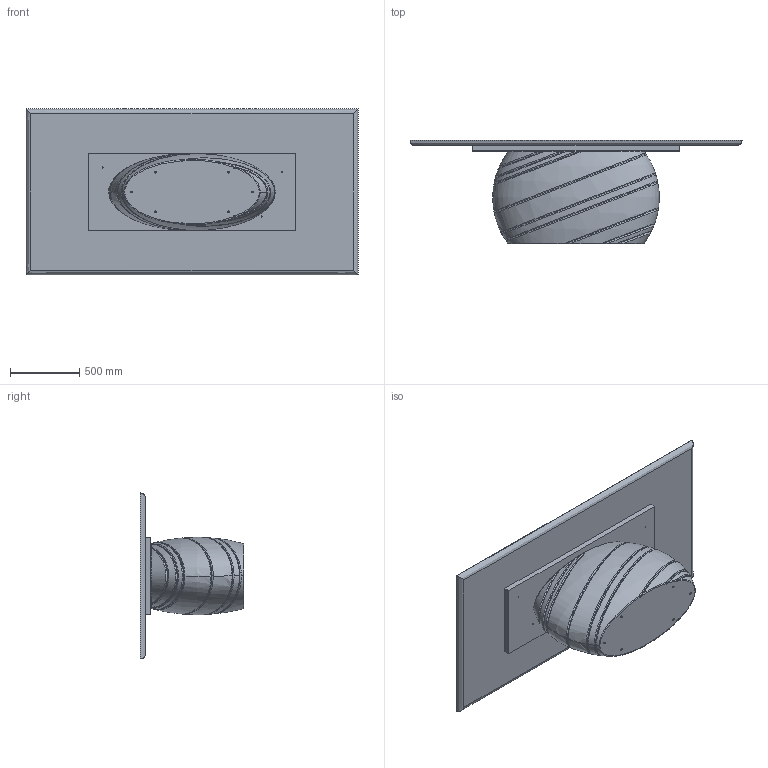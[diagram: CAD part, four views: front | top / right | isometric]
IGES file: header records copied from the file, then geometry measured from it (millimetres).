
Start section: SolidWorks IGES file using analytic representation for surfaces
Global section: file name: Y:\eforma\TECNICO\SOLIDWORKS\E-FORMA\1-TAVOLI\GIOVE\08 modelli 3D web\legno 240x120.IGS; native system: SolidWorks 2022; preprocessor: SolidWorks 2022; author: eforma.tech; date: 250526.160356; units: millimetre
Bounding box: 2400 x 750 x 1200 mm (x, y, z)
Volume: 457545217.5 mm3; surface area: 10533749.2 mm2
Topology: 3 solids, 3 shells, 160 faces, 389 edges, 250 vertices
Faces by surface type: revolution 72, bspline 53, plane 35
